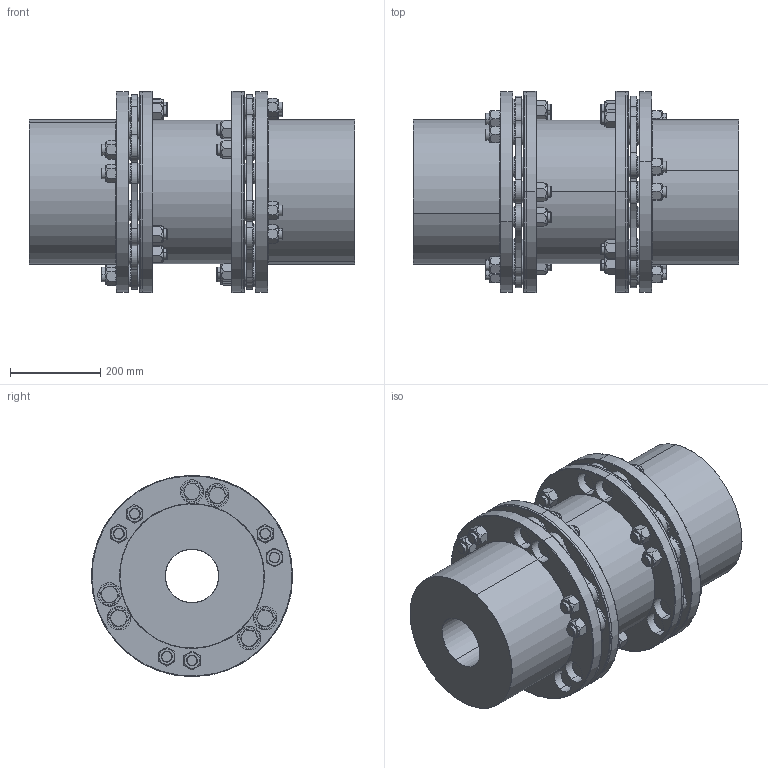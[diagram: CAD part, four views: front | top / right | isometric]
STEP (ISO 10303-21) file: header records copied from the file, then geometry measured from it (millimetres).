
FILE_DESCRIPTION (( 'STEP AP203' ), '1' );
FILE_NAME ('STEP_DMU_220.STEP', '2018-07-25T10:40:22', ( '' ), ( '' ), 'SwSTEP 2.0', 'SolidWorks 2017', '' );
FILE_SCHEMA (( 'CONFIG_CONTROL_DESIGN' ));
Length unit declared in the file: millimetre
Products named in the file (1): STEP_DMU_220
Bounding box: 720 x 445 x 445 mm (x, y, z)
Volume: 46657029.3 mm3; surface area: 2472947.2 mm2
Topology: 1 solids, 1 shells, 1826 faces, 4264 edges, 2576 vertices
Faces by surface type: plane 894, cone 472, cylinder 360, torus 100
Entity records: 57529 total; most frequent: CARTESIAN_POINT 16179, DIRECTION 8710, ORIENTED_EDGE 8384, EDGE_CURVE 4192, AXIS2_PLACEMENT_3D 3363, VERTEX_POINT 2576, EDGE_LOOP 2108, VECTOR 1984
